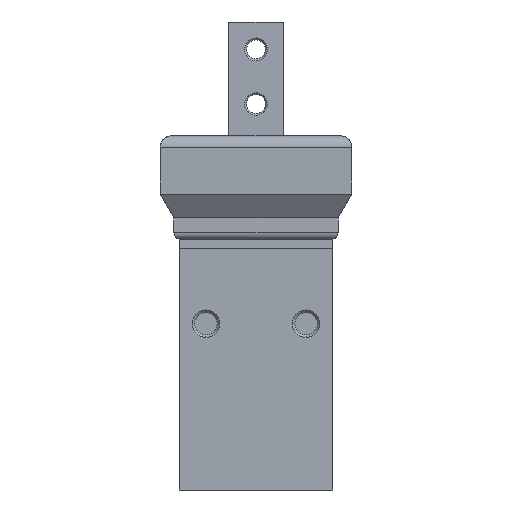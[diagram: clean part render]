
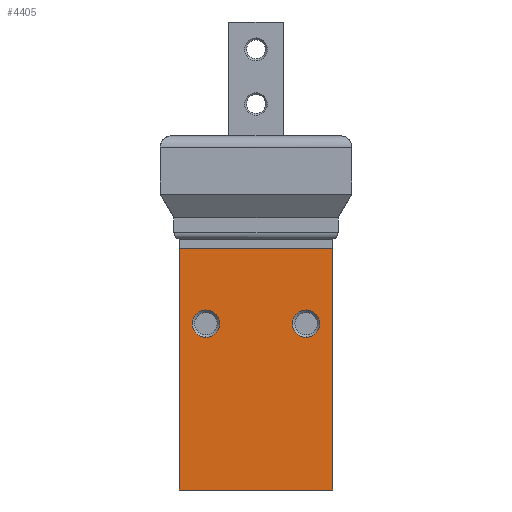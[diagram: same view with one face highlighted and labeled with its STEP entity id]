
A CAD part, left-side view. The second image highlights one B-rep face of the part: STEP entity #4405.
In plain terms, the highlighted planar face has unit normal (-1, 0, 0).
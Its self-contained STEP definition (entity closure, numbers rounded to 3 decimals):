
#65 = EDGE_CURVE ( 'NONE', #464, #1797, #1010, .T. ) ;
#123 = CARTESIAN_POINT ( 'NONE',  ( -26., 16.8, 53. ) ) ;
#214 = AXIS2_PLACEMENT_3D ( 'NONE', #123, #571, #4251 ) ;
#313 = VERTEX_POINT ( 'NONE', #3691 ) ;
#382 = VECTOR ( 'NONE', #6011, 1000. ) ;
#464 = VERTEX_POINT ( 'NONE', #1480 ) ;
#571 = DIRECTION ( 'NONE',  ( 1., 0., 0. ) ) ;
#765 = CIRCLE ( 'NONE', #7018, 3. ) ;
#872 = DIRECTION ( 'NONE',  ( -1., 0., 0. ) ) ;
#885 = AXIS2_PLACEMENT_3D ( 'NONE', #2625, #6809, #6925 ) ;
#945 = EDGE_CURVE ( 'NONE', #313, #4468, #765, .T. ) ;
#1010 = LINE ( 'NONE', #2230, #7165 ) ;
#1133 = EDGE_LOOP ( 'NONE', ( #5161, #5212, #5945, #1452 ) ) ;
#1176 = CARTESIAN_POINT ( 'NONE',  ( -26., -16.8, 53. ) ) ;
#1270 = CARTESIAN_POINT ( 'NONE',  ( -26., 11., 39.5 ) ) ;
#1378 = AXIS2_PLACEMENT_3D ( 'NONE', #5114, #872, #5154 ) ;
#1452 = ORIENTED_EDGE ( 'NONE', *, *, #3555, .T. ) ;
#1471 = DIRECTION ( 'NONE',  ( -1., 0., 0. ) ) ;
#1480 = CARTESIAN_POINT ( 'NONE',  ( -26., 16.8, 0. ) ) ;
#1531 = CARTESIAN_POINT ( 'NONE',  ( -26., -16.8, 0. ) ) ;
#1534 = CARTESIAN_POINT ( 'NONE',  ( -26., 16.8, 53. ) ) ;
#1797 = VERTEX_POINT ( 'NONE', #1531 ) ;
#2116 = ORIENTED_EDGE ( 'NONE', *, *, #6213, .F. ) ;
#2230 = CARTESIAN_POINT ( 'NONE',  ( -26., 16.8, 0. ) ) ;
#2328 = EDGE_CURVE ( 'NONE', #4468, #313, #4492, .T. ) ;
#2625 = CARTESIAN_POINT ( 'NONE',  ( -26., 11., 36.5 ) ) ;
#2860 = DIRECTION ( 'NONE',  ( 0., -1., 0. ) ) ;
#3019 = DIRECTION ( 'NONE',  ( 0., 0., -1. ) ) ;
#3061 = FACE_BOUND ( 'NONE', #3895, .T. ) ;
#3117 = CARTESIAN_POINT ( 'NONE',  ( -26., 16.8, 53. ) ) ;
#3136 = FACE_OUTER_BOUND ( 'NONE', #1133, .T. ) ;
#3263 = CARTESIAN_POINT ( 'NONE',  ( -26., -16.8, 53. ) ) ;
#3555 = EDGE_CURVE ( 'NONE', #5248, #464, #7913, .T. ) ;
#3689 = ORIENTED_EDGE ( 'NONE', *, *, #7736, .F. ) ;
#3691 = CARTESIAN_POINT ( 'NONE',  ( -26., -11., 33.5 ) ) ;
#3895 = EDGE_LOOP ( 'NONE', ( #3689, #2116 ) ) ;
#3954 = EDGE_LOOP ( 'NONE', ( #6364, #5428 ) ) ;
#4218 = VERTEX_POINT ( 'NONE', #3263 ) ;
#4251 = DIRECTION ( 'NONE',  ( 0., 1., 0. ) ) ;
#4405 = ADVANCED_FACE ( 'NONE', ( #3136, #7357, #3061 ), #5488, .F. ) ;
#4468 = VERTEX_POINT ( 'NONE', #5445 ) ;
#4492 = CIRCLE ( 'NONE', #6905, 3. ) ;
#4512 = DIRECTION ( 'NONE',  ( -1., 0., 0. ) ) ;
#5114 = CARTESIAN_POINT ( 'NONE',  ( -26., 11., 36.5 ) ) ;
#5154 = DIRECTION ( 'NONE',  ( 0., 0., 1. ) ) ;
#5161 = ORIENTED_EDGE ( 'NONE', *, *, #65, .T. ) ;
#5212 = ORIENTED_EDGE ( 'NONE', *, *, #5992, .F. ) ;
#5248 = VERTEX_POINT ( 'NONE', #3117 ) ;
#5302 = CARTESIAN_POINT ( 'NONE',  ( -26., 16.8, 53. ) ) ;
#5428 = ORIENTED_EDGE ( 'NONE', *, *, #945, .F. ) ;
#5442 = LINE ( 'NONE', #1176, #6082 ) ;
#5445 = CARTESIAN_POINT ( 'NONE',  ( -26., -11., 39.5 ) ) ;
#5488 = PLANE ( 'NONE',  #214 ) ;
#5945 = ORIENTED_EDGE ( 'NONE', *, *, #7903, .F. ) ;
#5992 = EDGE_CURVE ( 'NONE', #4218, #1797, #5442, .T. ) ;
#6011 = DIRECTION ( 'NONE',  ( 0., -1., 0. ) ) ;
#6082 = VECTOR ( 'NONE', #3019, 1000. ) ;
#6213 = EDGE_CURVE ( 'NONE', #6706, #7157, #7480, .T. ) ;
#6297 = CARTESIAN_POINT ( 'NONE',  ( -26., -11., 36.5 ) ) ;
#6364 = ORIENTED_EDGE ( 'NONE', *, *, #2328, .F. ) ;
#6411 = VECTOR ( 'NONE', #7268, 1000. ) ;
#6421 = DIRECTION ( 'NONE',  ( 0., 0., 1. ) ) ;
#6706 = VERTEX_POINT ( 'NONE', #7426 ) ;
#6761 = CIRCLE ( 'NONE', #885, 3. ) ;
#6809 = DIRECTION ( 'NONE',  ( -1., 0., 0. ) ) ;
#6905 = AXIS2_PLACEMENT_3D ( 'NONE', #6297, #4512, #6421 ) ;
#6925 = DIRECTION ( 'NONE',  ( 0., 0., 1. ) ) ;
#7004 = LINE ( 'NONE', #1534, #382 ) ;
#7018 = AXIS2_PLACEMENT_3D ( 'NONE', #7546, #1471, #7022 ) ;
#7022 = DIRECTION ( 'NONE',  ( 0., 0., 1. ) ) ;
#7157 = VERTEX_POINT ( 'NONE', #1270 ) ;
#7165 = VECTOR ( 'NONE', #2860, 1000. ) ;
#7268 = DIRECTION ( 'NONE',  ( 0., 0., -1. ) ) ;
#7357 = FACE_BOUND ( 'NONE', #3954, .T. ) ;
#7426 = CARTESIAN_POINT ( 'NONE',  ( -26., 11., 33.5 ) ) ;
#7480 = CIRCLE ( 'NONE', #1378, 3. ) ;
#7546 = CARTESIAN_POINT ( 'NONE',  ( -26., -11., 36.5 ) ) ;
#7736 = EDGE_CURVE ( 'NONE', #7157, #6706, #6761, .T. ) ;
#7903 = EDGE_CURVE ( 'NONE', #5248, #4218, #7004, .T. ) ;
#7913 = LINE ( 'NONE', #5302, #6411 ) ;
